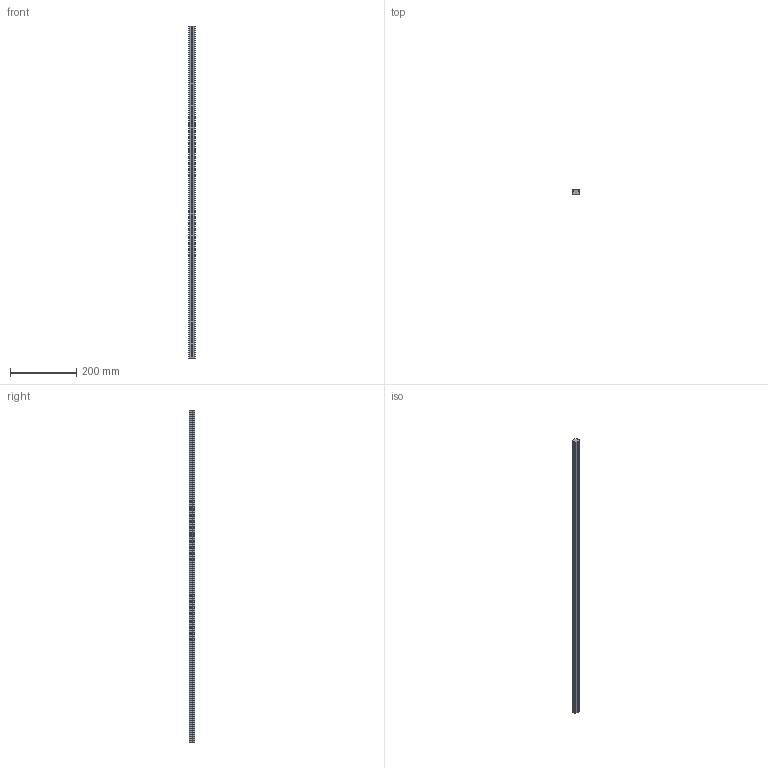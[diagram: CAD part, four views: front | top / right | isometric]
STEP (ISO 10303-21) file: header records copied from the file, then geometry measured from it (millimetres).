
FILE_DESCRIPTION (( 'STEP AP214' ), '1' );
FILE_NAME ('7.0031 Lineaarijohde ETR20T.STEP', '2026-03-31T11:03:48', ( '' ), ( '' ), 'SwSTEP 2.0', 'SolidWorks 2025', '' );
FILE_SCHEMA (( 'AUTOMOTIVE_DESIGN' ));
Length unit declared in the file: millimetre
Products named in the file (1): 7.0031 Lineaarijohde ETR20T
Bounding box: 20 x 15.5 x 1000 mm (x, y, z)
Volume: 276078.1 mm3; surface area: 75831.8 mm2
Topology: 1 solids, 1 shells, 121 faces, 340 edges, 187 vertices
Faces by surface type: cylinder 48, plane 39, cone 34
Entity records: 3645 total; most frequent: DIRECTION 680, CARTESIAN_POINT 615, ORIENTED_EDGE 612, EDGE_CURVE 306, AXIS2_PLACEMENT_3D 252, VERTEX_POINT 187, VECTOR 176, LINE 176
